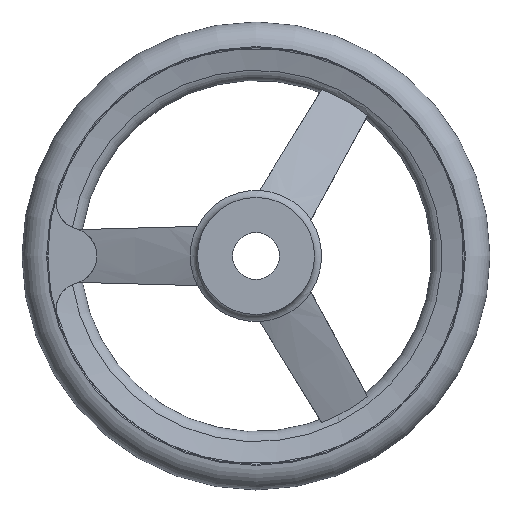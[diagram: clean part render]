
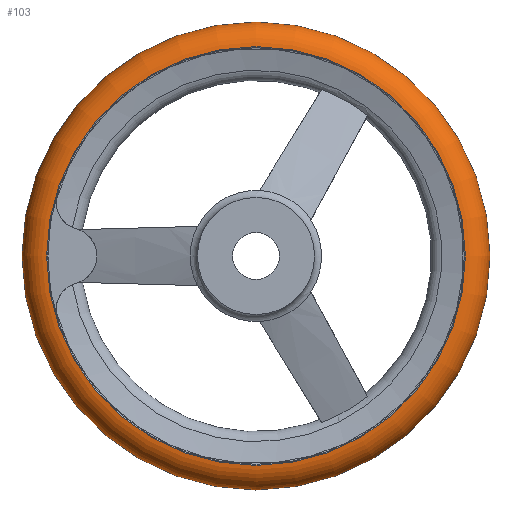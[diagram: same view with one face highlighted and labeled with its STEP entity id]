
A CAD part, left-side view. The second image highlights one B-rep face of the part: STEP entity #103.
In plain terms, the highlighted toroidal (fillet/blend) face has major radius 89 mm and minor radius 11 mm.
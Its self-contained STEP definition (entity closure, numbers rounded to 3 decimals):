
#103 = ADVANCED_FACE( '', ( #191, #192, #193 ), #194, .T. );
#191 = FACE_BOUND( '', #312, .T. );
#192 = FACE_OUTER_BOUND( '', #313, .T. );
#193 = FACE_OUTER_BOUND( '', #314, .T. );
#194 = TOROIDAL_SURFACE( '', #315, 89., 11. );
#312 = VERTEX_LOOP( '', #641 );
#313 = EDGE_LOOP( '', ( #642 ) );
#314 = EDGE_LOOP( '', ( #643 ) );
#315 = AXIS2_PLACEMENT_3D( '', #644, #645, #646 );
#641 = VERTEX_POINT( '', #858 );
#642 = ORIENTED_EDGE( '', *, *, #859, .T. );
#643 = ORIENTED_EDGE( '', *, *, #860, .F. );
#644 = CARTESIAN_POINT( '', ( 48., 0., 0. ) );
#645 = DIRECTION( '', ( 1., 0., 0. ) );
#646 = DIRECTION( '', ( 0., 1., 0. ) );
#858 = CARTESIAN_POINT( '', ( 48., 100., 0. ) );
#859 = EDGE_CURVE( '', #1040, #1040, #1041, .T. );
#860 = EDGE_CURVE( '', #1042, #1042, #1043, .T. );
#1040 = VERTEX_POINT( '', #1666 );
#1041 = CIRCLE( '', #1667, 89.458 );
#1042 = VERTEX_POINT( '', #1668 );
#1043 = CIRCLE( '', #1669, 89.458 );
#1666 = CARTESIAN_POINT( '', ( 37.01, 89.458, 0. ) );
#1667 = AXIS2_PLACEMENT_3D( '', #1853, #1854, #1855 );
#1668 = CARTESIAN_POINT( '', ( 58.99, 89.458, 0. ) );
#1669 = AXIS2_PLACEMENT_3D( '', #1856, #1857, #1858 );
#1853 = CARTESIAN_POINT( '', ( 37.01, 0., 0. ) );
#1854 = DIRECTION( '', ( 1., 0., 0. ) );
#1855 = DIRECTION( '', ( 0., 1., 0. ) );
#1856 = CARTESIAN_POINT( '', ( 58.99, 0., 0. ) );
#1857 = DIRECTION( '', ( 1., 0., 0. ) );
#1858 = DIRECTION( '', ( 0., 1., 0. ) );
